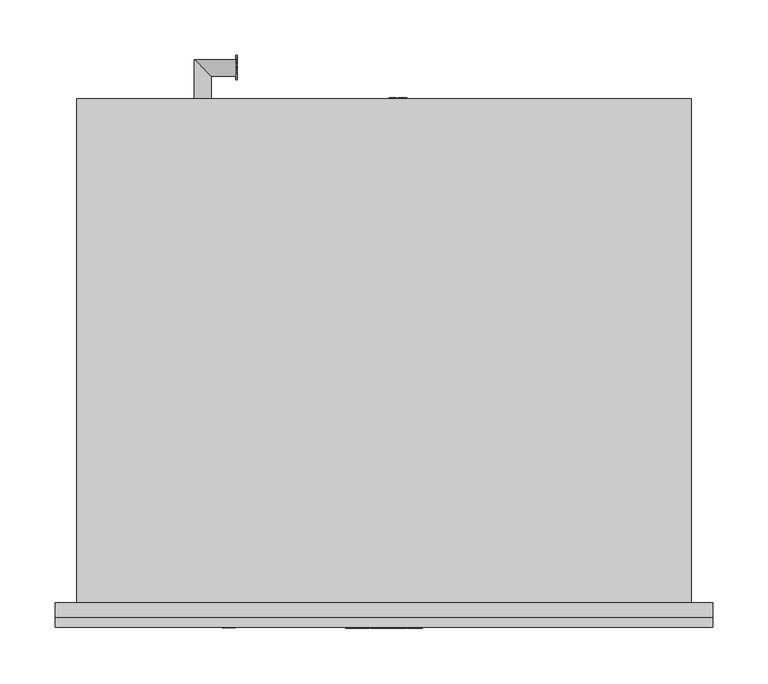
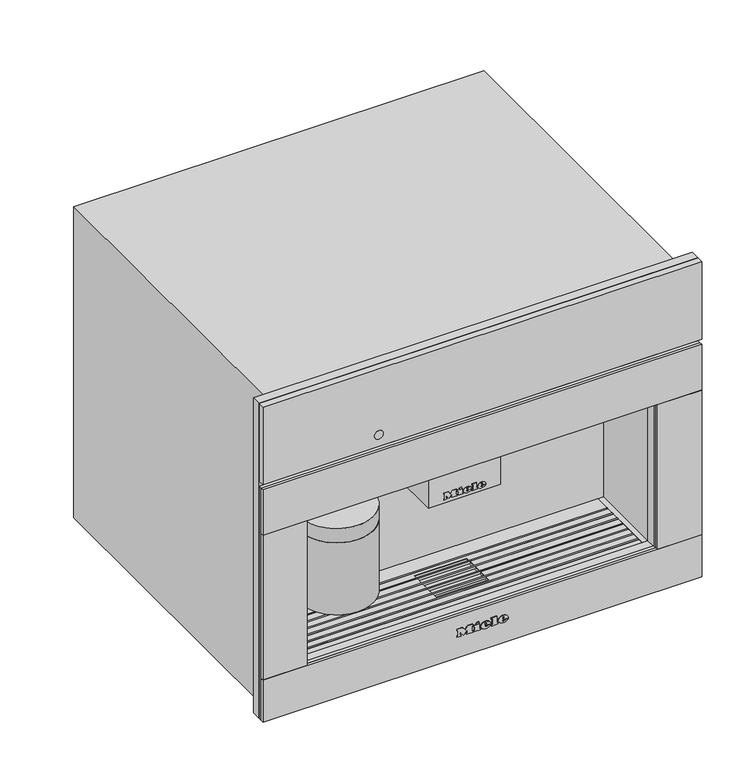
"""IFC4 building model written with IfcOpenShell, lengths in millimetres: proxy geometry, 12637240_NER_CVA7845_PEBE : 29784550_NER_12637240_CVA7845_PEBE."""

from ifc_helpers import new_model, si_unit, point, frame, frame_2d, origin, place, context, project, spatial, polyline, circle_curve, ellipse_curve, trimmed, segment, composite_curve, outline, extrude, faceted_brep, source, transform, mapped, element, save
from ifc_brep_helpers import plane_surface, cylinder_surface, revolved_surface, extruded_surface, advanced_brep


def specialty_equipment_d90eeb42(model_context):
    return source(origin(), model_context, "Body", "SolidModel", [
        extrude(outline(composite_curve([segment(trimmed(circle_curve(frame_2d((-14.0, 36.5)), 5.0), [point((-9.0, 36.5))], [point((-19.0, 36.5))], False, "CARTESIAN"), True, "CONTINUOUS"), segment(trimmed(circle_curve(frame_2d((-14.0, 36.5)), 5.0), [point((-19.0, 36.5))], [point((-9.0, 36.5))], False, "CARTESIAN"), True, "CONTINUOUS")], self_intersect=False)), frame((0.0, 0.0, 193.0), z_axis=(0.0, 0.0, 1.0), x_axis=(1.0, 0.0, 0.0)), (0.0, 0.0, 1.0), 5.0),
        extrude(outline(composite_curve([segment(trimmed(circle_curve(frame_2d((14.0, 36.5)), 5.0), [point((19.0, 36.5))], [point((9.0, 36.5))], False, "CARTESIAN"), True, "CONTINUOUS"), segment(trimmed(circle_curve(frame_2d((14.0, 36.5)), 5.0), [point((9.0, 36.5))], [point((19.0, 36.5))], False, "CARTESIAN"), True, "CONTINUOUS")], self_intersect=False)), frame((0.0, 0.0, 193.0), z_axis=(0.0, 0.0, 1.0), x_axis=(1.0, 0.0, 0.0)), (0.0, 0.0, 1.0), 5.0),
        extrude(outline(composite_curve([segment(trimmed(circle_curve(frame_2d((-156.5, 49.5)), 50.0), [point((-106.5, 49.5))], [point((-206.5, 49.5))], False, "CARTESIAN"), True, "CONTINUOUS"), segment(trimmed(circle_curve(frame_2d((-156.5, 49.5)), 50.0), [point((-206.5, 49.5))], [point((-106.5, 49.5))], False, "CARTESIAN"), True, "CONTINUOUS")], self_intersect=False)), frame((0.0, 0.0, 100.0), z_axis=(0.0, 0.0, 1.0), x_axis=(1.0, 0.0, 0.0)), (0.0, 0.0, 1.0), 103.0),
        extrude(outline(polyline([(-49.0, 95.0), (49.0, 95.0), (49.0, 20.0), (-49.0, 20.0), (-49.0, 95.0)])), frame((0.0, 0.0, 198.0), z_axis=(0.0, 0.0, 1.0), x_axis=(1.0, 0.0, 0.0)), (0.0, 0.0, 1.0), 75.0),
        extrude(outline(polyline([(455.5, 297.5), (455.5, -297.5), (4.0, -297.5), (4.0, 297.5), (455.5, 297.5)]), holes=[polyline([(273.0, 237.5), (63.0, 237.5), (63.0, -237.5), (273.0, -237.5), (273.0, 237.5)])]), frame((0.0, -13.0, 0.0), z_axis=(0.0, 1.0, 0.0), x_axis=(0.0, 0.0, 1.0)), (0.0, 0.0, 1.0), 13.0),
        extrude(outline(polyline([(484.5420128, 22.0), (481.8025182, 32.045631), (483.0974628, 32.045631), (484.6867131, 25.4433755), (485.1772224, 23.4053092), (485.7020674, 25.207931), (487.6935352, 32.045631), (489.5599232, 32.045631), (491.0069257, 27.0890343), (492.0835937, 23.4053092), (492.5593878, 25.3845144), (494.1633533, 32.045631), (495.4582979, 32.045631), (492.7163507, 22.0), (491.3748077, 22.0), (488.9664069, 29.7500474), (488.630408, 30.8316204), (488.2527159, 29.5293182), (486.0576866, 22.0), (484.5420128, 22.0)])), frame((-134.0, 0.0, 0.0), z_axis=(1.0, 0.0, 0.0), x_axis=(0.0, 1.0, 0.0)), (0.0, 0.0, 1.0), 1.0),
        extrude(outline(polyline([(473.48348, 22.0), (473.48348, 32.045631), (474.7391839, 32.045631), (474.7391839, 27.128275), (479.8895318, 32.045631), (481.6455552, 32.045631), (477.3217155, 27.9155425), (481.8025182, 22.0), (480.267224, 22.0), (476.4314411, 27.0669613), (474.7391839, 25.4531857), (474.7391839, 22.0), (473.48348, 22.0)])), frame((-134.0, 0.0, 0.0), z_axis=(1.0, 0.0, 0.0), x_axis=(0.0, 1.0, 0.0)), (0.0, 0.0, 1.0), 1.0),
        advanced_brep(
        [(-156.5, 476.5, 27.0), (-171.5, 491.5, 27.0), (-134.0, 491.5, 27.0), (-134.0, 476.5, 27.0), (-156.5, 456.0, 27.0), (-171.5, 456.0, 27.0)],
        [
            (0, 1, ellipse_curve(frame((-164.0, 484.0, 27.0), z_axis=(0.707106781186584, 0.7071067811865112, 0.0), x_axis=(-0.7071067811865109, 0.7071067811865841, 0.0)), 10.6066017, 7.5)),
            (1, 2),
            (2, 3, circle_curve(frame((-134.0, 484.0, 27.0), z_axis=(-1.0, 0.0, 0.0), x_axis=(0.0, 1.0, 0.0)), 7.5)),
            (3, 0),
            (4, 5, circle_curve(frame((-164.0, 456.0, 27.0), z_axis=(0.0, 1.0, 0.0), x_axis=(-1.0, 0.0, 0.0)), 7.5)),
            (5, 1),
            (0, 4),
            (4, 5, circle_curve(frame((-164.0, 456.0, 27.0), z_axis=(0.0, -1.0, 0.0), x_axis=(-1.0, 0.0, 0.0)), 7.5)),
            (0, 1, ellipse_curve(frame((-164.0, 484.0, 27.0), z_axis=(-0.707106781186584, -0.7071067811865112, 0.0), x_axis=(0.7071067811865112, -0.7071067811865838, 0.0)), 10.6066017, 7.5)),
            (2, 3, circle_curve(frame((-134.0, 484.0, 27.0), z_axis=(1.0, 0.0, 0.0), x_axis=(0.0, 1.0, 0.0)), 7.5)),
        ],
        [
            cylinder_surface(frame((-164.0, 484.0, 27.0), z_axis=(-1.0, 0.0, 0.0), x_axis=(0.0, 1.0, 0.0)), 7.5),
            cylinder_surface(frame((-164.0, 456.0, 27.0), z_axis=(0.0, -1.0, 0.0), x_axis=(-1.0, 0.0, 0.0)), 7.5),
            plane_surface(frame((-164.0, 456.0, 27.0), z_axis=(0.0, -1.0, 0.0), x_axis=(0.0, 0.0, 1.0))),
            plane_surface(frame((-134.0, 484.0, 27.0), z_axis=(1.0, 0.0, 0.0), x_axis=(0.0, 0.0, 1.0))),
        ],
        [
            (0, [[1, 2, 3, 4]]),
            (1, [[5, 6, -1, 7]]),
            (2, [[8, -5]]),
            (1, [[-8, -7, 9, -6]]),
            (3, [[-3, 10]]),
            (0, [[-9, -4, -10, -2]]),
        ],
    ),
        extrude(outline(polyline([(97.0, 11.140398), (107.045631, 11.140398), (107.045631, 9.8846941), (98.2557039, 9.8846941), (98.2557039, 4.8618786), (97.0, 4.8618786), (97.0, 11.140398)])), frame((0.0, 456.0, 0.0), z_axis=(0.0, 1.0, 0.0), x_axis=(0.0, 0.0, 1.0)), (0.0, 0.0, 1.0), 1.0),
        extrude(outline(polyline([(97.0, 20.4012141), (107.045631, 20.4012141), (107.045631, 13.1809168), (105.7899271, 13.1809168), (105.7899271, 19.1455102), (102.8076304, 19.1455102), (102.8076304, 13.4948427), (101.5519266, 13.4948427), (101.5519266, 19.1455102), (98.2557039, 19.1455102), (98.2557039, 13.0239538), (97.0, 13.0239538), (97.0, 20.4012141)])), frame((0.0, 456.0, 0.0), z_axis=(0.0, 1.0, 0.0), x_axis=(0.0, 0.0, 1.0)), (0.0, 0.0, 1.0), 1.0),
        advanced_brep(
        [(55.0, 425.5, 102.0), (55.0, 410.5, 102.0), (5.5239538, 410.5, 102.0), (20.5239538, 425.5, 102.0), (20.5239538, 456.0, 102.0), (5.5239538, 456.0, 102.0)],
        [
            (0, 1, circle_curve(frame((55.0, 418.0, 102.0), z_axis=(-1.0, 0.0, 0.0), x_axis=(0.0, -1.0, 0.0)), 7.5)),
            (1, 2),
            (2, 3, ellipse_curve(frame((13.0239538, 418.0, 102.0), z_axis=(0.7071067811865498, -0.7071067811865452, 0.0), x_axis=(0.7071067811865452, 0.7071067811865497, 0.0)), 10.6066017, 7.5)),
            (3, 0),
            (2, 3, ellipse_curve(frame((13.0239538, 418.0, 102.0), z_axis=(-0.7071067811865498, 0.7071067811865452, 0.0), x_axis=(-0.7071067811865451, -0.7071067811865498, 0.0)), 10.6066017, 7.5)),
            (3, 4),
            (4, 5, circle_curve(frame((13.0239538, 456.0, 102.0), z_axis=(0.0, -1.0, 0.0), x_axis=(-1.0, 0.0, 0.0)), 7.5)),
            (5, 2),
            (0, 1, circle_curve(frame((55.0, 418.0, 102.0), z_axis=(1.0, 0.0, 0.0), x_axis=(0.0, -1.0, 0.0)), 7.5)),
            (4, 5, circle_curve(frame((13.0239538, 456.0, 102.0), z_axis=(0.0, 1.0, 0.0), x_axis=(-1.0, 0.0, 0.0)), 7.5)),
        ],
        [
            cylinder_surface(frame((55.0, 418.0, 102.0), z_axis=(1.0, 0.0, 0.0), x_axis=(0.0, -1.0, 0.0)), 7.5),
            cylinder_surface(frame((13.0239538, 418.0, 102.0), z_axis=(0.0, -1.0, 0.0), x_axis=(-1.0, 0.0, 0.0)), 7.5),
            plane_surface(frame((55.0, 418.0, 102.0), z_axis=(1.0, 0.0, 0.0), x_axis=(0.0, 0.0, 1.0))),
            plane_surface(frame((13.0239538, 456.0, 102.0), z_axis=(0.0, 1.0, 0.0), x_axis=(0.0, 0.0, 1.0))),
        ],
        [
            (0, [[1, 2, 3, 4]]),
            (1, [[5, 6, 7, 8]]),
            (2, [[9, -1]]),
            (0, [[-9, -4, -5, -2]]),
            (3, [[10, -7]]),
            (1, [[-3, -8, -10, -6]]),
        ],
    ),
        advanced_brep(
        [(-106.5, 49.5, 203.0), (-206.5, 49.5, 203.0), (-156.5, 49.5, 203.0), (-106.5, 49.5, 223.5), (-206.5, 49.5, 223.5), (-110.0, 49.5, 252.0), (-203.0, 49.5, 252.0), (-110.0, 49.5, 273.0), (-203.0, 49.5, 273.0), (-156.5, 49.5, 273.0)],
        [
            (0, 1, circle_curve(frame((-156.5, 49.5, 203.0), z_axis=(0.0, 0.0, -1.0), x_axis=(-1.0, 0.0, 0.0)), 50.0)),
            (1, 2),
            (2, 0),
            (1, 0, circle_curve(frame((-156.5, 49.5, 203.0), z_axis=(0.0, 0.0, -1.0), x_axis=(-1.0, 0.0, 0.0)), 50.0)),
            (3, 4, circle_curve(frame((-156.5, 49.5, 223.5), z_axis=(0.0, 0.0, -1.0), x_axis=(-1.0, 0.0, 0.0)), 50.0)),
            (4, 1),
            (0, 3),
            (4, 3, circle_curve(frame((-156.5, 49.5, 223.5), z_axis=(0.0, 0.0, -1.0), x_axis=(-1.0, 0.0, 0.0)), 50.0)),
            (5, 6, circle_curve(frame((-156.5, 49.5, 252.0), z_axis=(0.0, 0.0, -1.0), x_axis=(-1.0, 0.0, 0.0)), 46.5)),
            (6, 4, circle_curve(frame((-206.7961166, 49.5, 238.0012775), z_axis=(0.0, 1.0, 0.0), x_axis=(-1.0, 0.0, 0.0)), 14.5043005)),
            (3, 5, circle_curve(frame((-106.2038834, 49.5, 238.0012775), z_axis=(0.0, 1.0, 0.0), x_axis=(1.0, 0.0, 0.0)), 14.5043005)),
            (6, 5, circle_curve(frame((-156.5, 49.5, 252.0), z_axis=(0.0, 0.0, -1.0), x_axis=(-1.0, 0.0, 0.0)), 46.5)),
            (7, 8, circle_curve(frame((-156.5, 49.5, 273.0), z_axis=(0.0, 0.0, -1.0), x_axis=(-1.0, 0.0, 0.0)), 46.5)),
            (8, 6),
            (5, 7),
            (8, 7, circle_curve(frame((-156.5, 49.5, 273.0), z_axis=(0.0, 0.0, -1.0), x_axis=(-1.0, 0.0, 0.0)), 46.5)),
            (9, 8),
            (7, 9),
        ],
        [
            plane_surface(frame((-156.5, 49.5, 203.0), z_axis=(0.0, 0.0, -1.0), x_axis=(-1.0, 0.0, 0.0))),
            cylinder_surface(frame((-156.5, 49.5, 388.7361736), z_axis=(0.0, 0.0, 1.0), x_axis=(-1.0, 0.0, 0.0)), 50.0),
            revolved_surface(trimmed(ellipse_curve(frame((-206.7961166, 49.5, 238.0012775), z_axis=(0.0, -1.0, 0.0), x_axis=(-1.0, 0.0, 0.0)), 14.5043005, 14.5043005), [point((-206.5, 49.5, 223.5))], [point((-203.0, 49.5, 252.0))], True, "CARTESIAN"), (-156.5, 49.5, 388.7361736), (0.0, 0.0, 1.0)),
            cylinder_surface(frame((-156.5, 49.5, 388.7361736), z_axis=(0.0, 0.0, 1.0), x_axis=(-1.0, 0.0, 0.0)), 46.5),
            plane_surface(frame((-156.5, 49.5, 273.0), z_axis=(0.0, 0.0, 1.0), x_axis=(-1.0, 0.0, 0.0))),
        ],
        [
            (0, [[1, 2, 3]]),
            (0, [[4, -3, -2]]),
            (1, [[5, 6, -1, 7]]),
            (1, [[8, -7, -4, -6]]),
            (2, [[9, 10, -5, 11]]),
            (2, [[12, -11, -8, -10]]),
            (3, [[13, 14, -9, 15]]),
            (3, [[16, -15, -12, -14]]),
            (4, [[17, -13, 18]]),
            (4, [[-18, -16, -17]]),
        ],
    ),
        faceted_brep([(229.5, 0.0, 62.0), (-229.5, 0.0, 62.0), (-229.5, 8.0, 62.0), (229.5, 8.0, 62.0), (-229.5, 104.5, 62.0), (229.5, 104.5, 62.0), (229.5, 82.0925571, 62.0), (-229.5, 82.0925571, 62.0), (36.0, 76.0, 62.0), (-36.0, 76.0, 62.0), (-36.0, 70.0550731, 62.0), (-229.5, 70.0550731, 62.0), (-229.5, 80.0925571, 62.0), (229.5, 80.0925571, 62.0), (229.5, 70.0550731, 62.0), (36.0, 70.0550731, 62.0), (-36.0, 25.0, 62.0), (36.0, 25.0, 62.0), (36.0, 31.9426212, 62.0), (229.5, 31.9426212, 62.0), (229.5, 21.9776522, 62.0), (-229.5, 21.9776522, 62.0), (-229.5, 31.9426212, 62.0), (-36.0, 31.9426212, 62.0), (229.5, 19.9776522, 62.0), (229.5, 10.0, 62.0), (-229.5, 10.0, 62.0), (-229.5, 19.9776522, 62.0), (229.5, 43.9801052, 62.0), (229.5, 33.9426212, 62.0), (36.0, 33.9426212, 62.0), (36.0, 43.9801052, 62.0), (229.5, 56.0175891, 62.0), (229.5, 45.9801052, 62.0), (36.0, 45.9801052, 62.0), (36.0, 56.0175891, 62.0), (229.5, 68.0550731, 62.0), (229.5, 58.0175891, 62.0), (36.0, 58.0175891, 62.0), (36.0, 68.0550731, 62.0), (-229.5, 33.9426212, 62.0), (-229.5, 43.9801052, 62.0), (-36.0, 43.9801052, 62.0), (-36.0, 33.9426212, 62.0), (-229.5, 45.9801052, 62.0), (-229.5, 56.0175891, 62.0), (-36.0, 56.0175891, 62.0), (-36.0, 45.9801052, 62.0), (-229.5, 58.0175891, 62.0), (-229.5, 68.0550731, 62.0), (-36.0, 68.0550731, 62.0), (-36.0, 58.0175891, 62.0), (229.5, 104.5, 63.0), (-229.5, 104.5, 63.0), (-229.5, 82.0925571, 63.0), (229.5, 82.0925571, 63.0), (-229.5, 0.0, 63.0), (229.5, 0.0, 63.0), (229.5, 8.0, 63.0), (-229.5, 8.0, 63.0), (-36.0, 76.0, 63.0), (36.0, 76.0, 63.0), (36.0, 70.0550731, 63.0), (229.5, 70.0550731, 63.0), (229.5, 80.0925571, 63.0), (-229.5, 80.0925571, 63.0), (-229.5, 70.0550731, 63.0), (-36.0, 70.0550731, 63.0), (36.0, 25.0, 63.0), (-36.0, 25.0, 63.0), (-36.0, 31.9426212, 63.0), (-229.5, 31.9426212, 63.0), (-229.5, 21.9776522, 63.0), (229.5, 21.9776522, 63.0), (229.5, 31.9426212, 63.0), (36.0, 31.9426212, 63.0), (-229.5, 19.9776522, 63.0), (-229.5, 10.0, 63.0), (229.5, 10.0, 63.0), (229.5, 19.9776522, 63.0), (-229.5, 43.9801052, 63.0), (-229.5, 33.9426212, 63.0), (-36.0, 33.9426212, 63.0), (-36.0, 43.9801052, 63.0), (-229.5, 56.0175891, 63.0), (-229.5, 45.9801052, 63.0), (-36.0, 45.9801052, 63.0), (-36.0, 56.0175891, 63.0), (-229.5, 68.0550731, 63.0), (-229.5, 58.0175891, 63.0), (-36.0, 58.0175891, 63.0), (-36.0, 68.0550731, 63.0), (229.5, 33.9426212, 63.0), (229.5, 43.9801052, 63.0), (36.0, 43.9801052, 63.0), (36.0, 33.9426212, 63.0), (229.5, 45.9801052, 63.0), (229.5, 56.0175891, 63.0), (36.0, 56.0175891, 63.0), (36.0, 45.9801052, 63.0), (229.5, 58.0175891, 63.0), (229.5, 68.0550731, 63.0), (36.0, 68.0550731, 63.0), (36.0, 58.0175891, 63.0), (-229.5, 82.0925571, 60.0), (-229.5, 80.0925571, 60.0), (-229.5, 70.0550731, 60.0), (-229.5, 68.0550731, 60.0), (-229.5, 58.0175891, 60.0), (-229.5, 56.0175891, 60.0), (-229.5, 45.9801052, 60.0), (-229.5, 43.9801052, 60.0), (-229.5, 33.9426212, 60.0), (-229.5, 31.9426212, 60.0), (-229.5, 21.9776522, 60.0), (-229.5, 19.9776522, 60.0), (-229.5, 10.0, 60.0), (-229.5, 8.0, 60.0), (-229.5, 8.0, 63.5), (-229.5, 10.0, 63.5), (-229.5, 19.9776522, 63.5), (-229.5, 21.9776522, 63.5), (-229.5, 31.9426212, 63.5), (-229.5, 33.9426212, 63.5), (-229.5, 43.9801052, 63.5), (-229.5, 45.9801052, 63.5), (-229.5, 56.0175891, 63.5), (-229.5, 58.0175891, 63.5), (-229.5, 68.0550731, 63.5), (-229.5, 70.0550731, 63.5), (-229.5, 80.0925571, 63.5), (-229.5, 82.0925571, 63.5), (229.5, 82.0925571, 63.5), (229.5, 80.0925571, 63.5), (229.5, 70.0550731, 63.5), (229.5, 68.0550731, 63.5), (229.5, 58.0175891, 63.5), (229.5, 56.0175891, 63.5), (229.5, 45.9801052, 63.5), (229.5, 43.9801052, 63.5), (229.5, 33.9426212, 63.5), (229.5, 31.9426212, 63.5), (229.5, 21.9776522, 63.5), (229.5, 19.9776522, 63.5), (229.5, 10.0, 63.5), (229.5, 8.0, 63.5), (229.5, 8.0, 60.0), (229.5, 10.0, 60.0), (229.5, 19.9776522, 60.0), (229.5, 21.9776522, 60.0), (229.5, 31.9426212, 60.0), (229.5, 33.9426212, 60.0), (229.5, 43.9801052, 60.0), (229.5, 45.9801052, 60.0), (229.5, 56.0175891, 60.0), (229.5, 58.0175891, 60.0), (229.5, 68.0550731, 60.0), (229.5, 70.0550731, 60.0), (229.5, 80.0925571, 60.0), (229.5, 82.0925571, 60.0)], [[[0, 1, 2, 3]], [[4, 5, 6, 7]], [[8, 9, 10, 11, 12, 13, 14, 15]], [[16, 17, 18, 19, 20, 21, 22, 23]], [[24, 25, 26, 27]], [[28, 29, 30, 31]], [[32, 33, 34, 35]], [[36, 37, 38, 39]], [[40, 41, 42, 43]], [[44, 45, 46, 47]], [[48, 49, 50, 51]], [[52, 53, 54, 55]], [[56, 57, 58, 59]], [[60, 61, 62, 63, 64, 65, 66, 67]], [[68, 69, 70, 71, 72, 73, 74, 75]], [[76, 77, 78, 79]], [[80, 81, 82, 83]], [[84, 85, 86, 87]], [[88, 89, 90, 91]], [[92, 93, 94, 95]], [[96, 97, 98, 99]], [[100, 101, 102, 103]], [[5, 4, 53, 52]], [[53, 4, 7, 104, 105, 12, 11, 106, 107, 49, 48, 108, 109, 45, 44, 110, 111, 41, 40, 112, 113, 22, 21, 114, 115, 27, 26, 116, 117, 2, 1, 56, 59, 118, 119, 77, 76, 120, 121, 72, 71, 122, 123, 81, 80, 124, 125, 85, 84, 126, 127, 89, 88, 128, 129, 66, 65, 130, 131, 54]], [[1, 0, 57, 56]], [[5, 52, 55, 132, 133, 64, 63, 134, 135, 101, 100, 136, 137, 97, 96, 138, 139, 93, 92, 140, 141, 74, 73, 142, 143, 79, 78, 144, 145, 58, 57, 0, 3, 146, 147, 25, 24, 148, 149, 20, 19, 150, 151, 29, 28, 152, 153, 33, 32, 154, 155, 37, 36, 156, 157, 14, 13, 158, 159, 6]], [[8, 61, 60, 9]], [[43, 42, 83, 82]], [[47, 46, 87, 86]], [[51, 50, 91, 90]], [[9, 60, 67, 10]], [[69, 16, 23, 70]], [[16, 69, 68, 17]], [[31, 30, 95, 94]], [[35, 34, 99, 98]], [[39, 38, 103, 102]], [[61, 8, 15, 62]], [[17, 68, 75, 18]], [[147, 146, 117, 116]], [[149, 148, 115, 114]], [[151, 150, 113, 112]], [[153, 152, 111, 110]], [[155, 154, 109, 108]], [[157, 156, 107, 106]], [[159, 158, 105, 104]], [[144, 119, 118, 145]], [[142, 121, 120, 143]], [[140, 123, 122, 141]], [[138, 125, 124, 139]], [[136, 127, 126, 137]], [[134, 129, 128, 135]], [[132, 131, 130, 133]], [[147, 116, 26, 25]], [[119, 144, 78, 77]], [[117, 146, 3, 2]], [[145, 118, 59, 58]], [[149, 114, 21, 20]], [[121, 142, 73, 72]], [[115, 148, 24, 27]], [[143, 120, 76, 79]], [[151, 112, 40, 43, 82, 81, 123, 140, 92, 95, 30, 29]], [[113, 150, 19, 18, 75, 74, 141, 122, 71, 70, 23, 22]], [[153, 110, 44, 47, 86, 85, 125, 138, 96, 99, 34, 33]], [[111, 152, 28, 31, 94, 93, 139, 124, 80, 83, 42, 41]], [[155, 108, 48, 51, 90, 89, 127, 136, 100, 103, 38, 37]], [[109, 154, 32, 35, 98, 97, 137, 126, 84, 87, 46, 45]], [[157, 106, 11, 10, 67, 66, 129, 134, 63, 62, 15, 14]], [[107, 156, 36, 39, 102, 101, 135, 128, 88, 91, 50, 49]], [[159, 104, 7, 6]], [[131, 132, 55, 54]], [[105, 158, 13, 12]], [[133, 130, 65, 64]]]),
        faceted_brep([(-278.0, 456.0, 0.0), (-278.0, 0.0, 0.0), (-278.0, 0.0, 446.0), (-278.0, 456.0, 446.0), (278.0, 456.0, 0.0), (278.0, 456.0, 446.0), (278.0, 0.0, 446.0), (278.0, 0.0, 0.0), (55.0, 456.0, 133.0), (-22.0, 456.0, 133.0), (-22.0, 456.0, 89.0), (35.0, 456.0, 66.0), (55.0, 456.0, 66.0), (237.5, 0.0, 273.0), (237.5, 0.0, 63.0), (229.5, 0.0, 63.0), (229.5, 0.0, 62.0), (-229.5, 0.0, 62.0), (-229.5, 0.0, 63.0), (-237.5, 0.0, 63.0), (-237.5, 0.0, 273.0), (237.5, 104.5, 273.0), (-237.5, 104.5, 273.0), (-237.5, 104.5, 63.0), (-229.5, 104.5, 63.0), (-229.5, 104.5, 62.0), (229.5, 104.5, 62.0), (229.5, 104.5, 63.0), (237.5, 104.5, 63.0), (-36.0, 76.0, 62.0), (36.0, 76.0, 62.0), (36.0, 25.0, 62.0), (-36.0, 25.0, 62.0), (36.0, 76.0, 58.0), (-36.0, 76.0, 58.0), (-36.0, 25.0, 58.0), (36.0, 25.0, 58.0), (-22.0, 400.0, 133.0), (55.0, 400.0, 133.0), (55.0, 400.0, 66.0), (35.0, 400.0, 66.0), (-22.0, 400.0, 89.0)], [[[0, 1, 2, 3]], [[4, 5, 6, 7]], [[0, 3, 5, 4], [8, 9, 10, 11, 12]], [[3, 2, 6, 5]], [[2, 1, 7, 6], [13, 14, 15, 16, 17, 18, 19, 20]], [[1, 0, 4, 7]], [[21, 22, 23, 24, 25, 26, 27, 28]], [[21, 28, 14, 13]], [[14, 28, 27, 15]], [[23, 19, 18, 24]], [[23, 22, 20, 19]], [[22, 21, 13, 20]], [[26, 25, 17, 16], [29, 30, 31, 32]], [[17, 25, 24, 18]], [[26, 16, 15, 27]], [[33, 34, 35, 36]], [[34, 33, 30, 29]], [[35, 34, 29, 32]], [[36, 35, 32, 31]], [[33, 36, 31, 30]], [[37, 38, 39, 40, 41]], [[38, 37, 9, 8]], [[39, 38, 8, 12]], [[40, 39, 12, 11]], [[41, 40, 11, 10]], [[37, 41, 10, 9]]]),
        advanced_brep(
        [(27.088, -23.0, 36.7018), (27.088, -23.0, 37.8532), (34.7146, -23.0, 37.8532), (21.445, -23.0, 37.8532), (24.58, -23.0, 34.0), (34.5208, -23.0, 36.7018), (31.078, -23.0, 36.7018), (28.3648, -23.0, 35.425), (27.088, -23.0, 39.3124), (27.088, -23.0, 40.555), (29.0374, -23.0, 40.555), (29.0374, -23.0, 39.3124), (27.088, -22.0, 36.7018), (28.3648, -22.0, 35.425), (31.078, -22.0, 36.7018), (34.5208, -22.0, 36.7018), (24.58, -22.0, 34.0), (21.445, -22.0, 37.8532), (34.7146, -22.0, 37.8532), (27.088, -22.0, 37.8532), (27.088, -22.0, 39.3124), (29.0374, -22.0, 39.3124), (29.0374, -22.0, 40.555), (27.088, -22.0, 40.555)],
        [
            (0, 1),
            (1, 2),
            (2, 3, ellipse_curve(frame((28.0798, -23.0, 37.8532), z_axis=(0.0, -1.0, 0.0), x_axis=(-1.0, 0.0, 0.0)), 6.6348, 5.4834)),
            (3, 4, circle_curve(frame((25.8568622, -23.0, 38.2408), z_axis=(0.0, -1.0, 0.0), x_axis=(0.0, 0.0, -1.0)), 4.4288556)),
            (4, 5, circle_curve(frame((27.9469808, -23.0, 41.2504), z_axis=(0.0, -1.0, 0.0), x_axis=(0.0, 0.0, -1.0)), 7.9940516)),
            (5, 6),
            (6, 7, circle_curve(frame((28.9220588, -23.0, 37.762), z_axis=(0.0, 1.0, 0.0), x_axis=(0.0, 0.0, -1.0)), 2.4025208)),
            (7, 0, circle_curve(frame((28.3648, -23.0, 36.7018), z_axis=(0.0, 1.0, 0.0), x_axis=(0.0, 0.0, -1.0)), 1.2768)),
            (8, 9),
            (9, 10, circle_curve(frame((28.0627, -23.0, 40.555), z_axis=(0.0, 1.0, 0.0), x_axis=(0.0, 0.0, -1.0)), 0.9747)),
            (10, 11),
            (11, 8),
            (12, 13, circle_curve(frame((28.3648, -22.0, 36.7018), z_axis=(0.0, -1.0, 0.0), x_axis=(0.0, 0.0, -1.0)), 1.2768)),
            (13, 14, circle_curve(frame((28.9220588, -22.0, 37.762), z_axis=(0.0, -1.0, 0.0), x_axis=(0.0, 0.0, -1.0)), 2.4025208)),
            (14, 15),
            (15, 16, circle_curve(frame((27.9469808, -22.0, 41.2504), z_axis=(0.0, 1.0, 0.0), x_axis=(0.0, 0.0, -1.0)), 7.9940516)),
            (16, 17, circle_curve(frame((25.8568622, -22.0, 38.2408), z_axis=(0.0, 1.0, 0.0), x_axis=(0.0, 0.0, -1.0)), 4.4288556)),
            (17, 18, ellipse_curve(frame((28.0798, -22.0, 37.8532), z_axis=(0.0, 1.0, 0.0), x_axis=(-1.0, 0.0, 0.0)), 6.6348, 5.4834)),
            (18, 19),
            (19, 12),
            (20, 21),
            (21, 22),
            (22, 23, circle_curve(frame((28.0627, -22.0, 40.555), z_axis=(0.0, -1.0, 0.0), x_axis=(0.0, 0.0, -1.0)), 0.9747)),
            (23, 20),
            (0, 12),
            (19, 1),
            (18, 2),
            (5, 15),
            (14, 6),
            (17, 3),
            (13, 7),
            (16, 4),
            (8, 20),
            (23, 9),
            (22, 10),
            (21, 11),
        ],
        [
            plane_surface(frame((27.088, -23.0, 37.8532), z_axis=(0.0, -1.0, 0.0), x_axis=(0.0, 0.0, 1.0))),
            plane_surface(frame((27.088, -22.0, 37.8532), z_axis=(0.0, 1.0, 0.0), x_axis=(0.0, 0.0, -1.0))),
            plane_surface(frame((27.088, -23.0, 36.7018), z_axis=(1.0, 0.0, 0.0), x_axis=(0.0, 1.0, 0.0))),
            plane_surface(frame((27.088, -23.0, 37.8532), z_axis=(0.0, 0.0, -1.0), x_axis=(0.0, 1.0, 0.0))),
            plane_surface(frame((34.5208, -23.0, 36.7018), z_axis=(0.0, 0.0, 1.0), x_axis=(0.0, 1.0, 0.0))),
            extruded_surface(trimmed(ellipse_curve(frame((28.0798, -21.0, 37.8532), z_axis=(0.0, -1.0, 0.0), x_axis=(-1.0, 0.0, 0.0)), 6.6348, 5.4834), [point((34.7146, -21.0, 37.8532))], [point((21.445, -21.0, 37.8532))], True, "CARTESIAN"), (0.0, -1.0, 0.0), 1.0),
            revolved_surface(polyline([(28.9220588, -22.0, 35.3594792), (28.9220588, -23.0, 35.3594792)]), (28.9220588, -22.0, 37.762), (0.0, 1.0, 0.0)),
            revolved_surface(polyline([(28.3648, -22.0, 35.425), (28.3648, -23.0, 35.425)]), (28.3648, -22.0, 36.7018), (0.0, 1.0, 0.0)),
            cylinder_surface(frame((25.8568622, -22.0, 38.2408), z_axis=(0.0, -1.0, 0.0), x_axis=(0.0, 0.0, -1.0)), 4.4288556),
            cylinder_surface(frame((27.9469808, -22.0, 41.2504), z_axis=(0.0, -1.0, 0.0), x_axis=(0.0, 0.0, -1.0)), 7.9940516),
            plane_surface(frame((27.088, -23.0, 39.3124), z_axis=(1.0, 0.0, 0.0), x_axis=(0.0, 1.0, 0.0))),
            revolved_surface(polyline([(28.0627, -22.0, 39.5803), (28.0627, -23.0, 39.5803)]), (28.0627, -22.0, 40.555), (0.0, 1.0, 0.0)),
            plane_surface(frame((29.0374, -23.0, 40.555), z_axis=(-1.0, 0.0, 0.0), x_axis=(0.0, 1.0, 0.0))),
            plane_surface(frame((29.0374, -23.0, 39.3124), z_axis=(0.0, 0.0, 1.0), x_axis=(0.0, 1.0, 0.0))),
        ],
        [
            (0, [[1, 2, 3, 4, 5, 6, 7, 8], [9, 10, 11, 12]]),
            (1, [[13, 14, 15, 16, 17, 18, 19, 20], [21, 22, 23, 24]]),
            (2, [[-1, 25, -20, 26]]),
            (3, [[-2, -26, -19, 27]]),
            (4, [[-6, 28, -15, 29]]),
            (5, [[-3, -27, -18, 30]]),
            (6, [[-7, -29, -14, 31]]),
            (7, [[-8, -31, -13, -25]]),
            (8, [[-4, -30, -17, 32]]),
            (9, [[-5, -32, -16, -28]]),
            (10, [[-9, 33, -24, 34]]),
            (11, [[-10, -34, -23, 35]]),
            (12, [[-11, -35, -22, 36]]),
            (13, [[-12, -36, -21, -33]]),
        ],
    ),
        advanced_brep(
        [(3.2962, -23.0, 36.7018), (3.2962, -23.0, 37.8532), (10.9228, -23.0, 37.8532), (-2.3468, -23.0, 37.8532), (0.7882, -23.0, 34.0), (10.729, -23.0, 36.7018), (7.2862, -23.0, 36.7018), (4.573, -23.0, 35.425), (3.2962, -23.0, 39.3124), (3.2962, -23.0, 40.555), (5.2456, -23.0, 40.555), (5.2456, -23.0, 39.3124), (3.2962, -22.0, 36.7018), (4.573, -22.0, 35.425), (7.2862, -22.0, 36.7018), (10.729, -22.0, 36.7018), (0.7882, -22.0, 34.0), (-2.3468, -22.0, 37.8532), (10.9228, -22.0, 37.8532), (3.2962, -22.0, 37.8532), (3.2962, -22.0, 39.3124), (5.2456, -22.0, 39.3124), (5.2456, -22.0, 40.555), (3.2962, -22.0, 40.555)],
        [
            (0, 1),
            (1, 2),
            (2, 3, ellipse_curve(frame((4.288, -23.0, 37.8532), z_axis=(0.0, -1.0, 0.0), x_axis=(-1.0, 0.0, 0.0)), 6.6348, 5.4834)),
            (3, 4, circle_curve(frame((2.0650622, -23.0, 38.2408), z_axis=(0.0, -1.0, 0.0), x_axis=(0.0, 0.0, -1.0)), 4.4288556)),
            (4, 5, circle_curve(frame((4.1551808, -23.0, 41.2504), z_axis=(0.0, -1.0, 0.0), x_axis=(0.0, 0.0, -1.0)), 7.9940516)),
            (5, 6),
            (6, 7, circle_curve(frame((5.1302588, -23.0, 37.762), z_axis=(0.0, 1.0, 0.0), x_axis=(0.0, 0.0, -1.0)), 2.4025208)),
            (7, 0, circle_curve(frame((4.573, -23.0, 36.7018), z_axis=(0.0, 1.0, 0.0), x_axis=(0.0, 0.0, -1.0)), 1.2768)),
            (8, 9),
            (9, 10, circle_curve(frame((4.2709, -23.0, 40.555), z_axis=(0.0, 1.0, 0.0), x_axis=(0.0, 0.0, -1.0)), 0.9747)),
            (10, 11),
            (11, 8),
            (12, 13, circle_curve(frame((4.573, -22.0, 36.7018), z_axis=(0.0, -1.0, 0.0), x_axis=(0.0, 0.0, -1.0)), 1.2768)),
            (13, 14, circle_curve(frame((5.1302588, -22.0, 37.762), z_axis=(0.0, -1.0, 0.0), x_axis=(0.0, 0.0, -1.0)), 2.4025208)),
            (14, 15),
            (15, 16, circle_curve(frame((4.1551808, -22.0, 41.2504), z_axis=(0.0, 1.0, 0.0), x_axis=(0.0, 0.0, -1.0)), 7.9940516)),
            (16, 17, circle_curve(frame((2.0650622, -22.0, 38.2408), z_axis=(0.0, 1.0, 0.0), x_axis=(0.0, 0.0, -1.0)), 4.4288556)),
            (17, 18, ellipse_curve(frame((4.288, -22.0, 37.8532), z_axis=(0.0, 1.0, 0.0), x_axis=(-1.0, 0.0, 0.0)), 6.6348, 5.4834)),
            (18, 19),
            (19, 12),
            (20, 21),
            (21, 22),
            (22, 23, circle_curve(frame((4.2709, -22.0, 40.555), z_axis=(0.0, -1.0, 0.0), x_axis=(0.0, 0.0, -1.0)), 0.9747)),
            (23, 20),
            (0, 12),
            (19, 1),
            (18, 2),
            (5, 15),
            (14, 6),
            (17, 3),
            (13, 7),
            (16, 4),
            (8, 20),
            (23, 9),
            (22, 10),
            (21, 11),
        ],
        [
            plane_surface(frame((3.2962, -23.0, 37.8532), z_axis=(0.0, -1.0, 0.0), x_axis=(0.0, 0.0, 1.0))),
            plane_surface(frame((3.2962, -22.0, 37.8532), z_axis=(0.0, 1.0, 0.0), x_axis=(0.0, 0.0, -1.0))),
            plane_surface(frame((3.2962, -23.0, 36.7018), z_axis=(1.0, 0.0, 0.0), x_axis=(0.0, 1.0, 0.0))),
            plane_surface(frame((3.2962, -23.0, 37.8532), z_axis=(0.0, 0.0, -1.0), x_axis=(0.0, 1.0, 0.0))),
            plane_surface(frame((10.729, -23.0, 36.7018), z_axis=(0.0, 0.0, 1.0), x_axis=(0.0, 1.0, 0.0))),
            extruded_surface(trimmed(ellipse_curve(frame((4.288, -21.0, 37.8532), z_axis=(0.0, -1.0, 0.0), x_axis=(-1.0, 0.0, 0.0)), 6.6348, 5.4834), [point((10.9228, -21.0, 37.8532))], [point((-2.3468, -21.0, 37.8532))], True, "CARTESIAN"), (0.0, -1.0, 0.0), 1.0),
            revolved_surface(polyline([(5.1302588, -22.0, 35.3594792), (5.1302588, -23.0, 35.3594792)]), (5.1302588, -22.0, 37.762), (0.0, 1.0, 0.0)),
            revolved_surface(polyline([(4.573, -22.0, 35.425), (4.573, -23.0, 35.425)]), (4.573, -22.0, 36.7018), (0.0, 1.0, 0.0)),
            cylinder_surface(frame((2.0650622, -22.0, 38.2408), z_axis=(0.0, -1.0, 0.0), x_axis=(0.0, 0.0, -1.0)), 4.4288556),
            cylinder_surface(frame((4.1551808, -22.0, 41.2504), z_axis=(0.0, -1.0, 0.0), x_axis=(0.0, 0.0, -1.0)), 7.9940516),
            plane_surface(frame((3.2962, -23.0, 39.3124), z_axis=(1.0, 0.0, 0.0), x_axis=(0.0, 1.0, 0.0))),
            revolved_surface(polyline([(4.2709, -22.0, 39.5803), (4.2709, -23.0, 39.5803)]), (4.2709, -22.0, 40.555), (0.0, 1.0, 0.0)),
            plane_surface(frame((5.2456, -23.0, 40.555), z_axis=(-1.0, 0.0, 0.0), x_axis=(0.0, 1.0, 0.0))),
            plane_surface(frame((5.2456, -23.0, 39.3124), z_axis=(0.0, 0.0, 1.0), x_axis=(0.0, 1.0, 0.0))),
        ],
        [
            (0, [[1, 2, 3, 4, 5, 6, 7, 8], [9, 10, 11, 12]]),
            (1, [[13, 14, 15, 16, 17, 18, 19, 20], [21, 22, 23, 24]]),
            (2, [[-1, 25, -20, 26]]),
            (3, [[-2, -26, -19, 27]]),
            (4, [[-6, 28, -15, 29]]),
            (5, [[-3, -27, -18, 30]]),
            (6, [[-7, -29, -14, 31]]),
            (7, [[-8, -31, -13, -25]]),
            (8, [[-4, -30, -17, 32]]),
            (9, [[-5, -32, -16, -28]]),
            (10, [[-9, 33, -24, 34]]),
            (11, [[-10, -34, -23, 35]]),
            (12, [[-11, -35, -22, 36]]),
            (13, [[-12, -36, -21, -33]]),
        ],
    ),
        extrude(outline(polyline([(44.7274, -9.164), (42.8806, -8.2976), (44.6818, -4.433), (46.5286, -5.288), (44.7274, -9.164)])), frame((0.0, -23.0, 0.0), z_axis=(0.0, 1.0, 0.0), x_axis=(0.0, 0.0, 1.0)), (0.0, 0.0, 1.0), 1.0),
        extrude(outline(polyline([(42.6298, -11.9798), (40.5892, -11.9798), (40.5892, -10.6232), (35.9152, -10.6232), (35.9152, -11.9798), (34.0, -11.9798), (34.0, -2.9852), (35.9152, -2.9852), (35.9152, -4.3076), (42.6298, -4.3076), (42.6298, -11.9798)])), frame((0.0, -23.0, 0.0), z_axis=(0.0, 1.0, 0.0), x_axis=(0.0, 0.0, 1.0)), (0.0, 0.0, 1.0), 1.0),
        extrude(outline(polyline([(43.5418, 11.5612), (43.5418, 12.9292), (35.9152, 12.9292), (35.9152, 11.5612), (34.0, 11.5612), (34.0, 20.8066), (35.9152, 20.8066), (35.9152, 19.4044), (45.4, 19.4044), (45.4, 11.5612), (43.5418, 11.5612)])), frame((0.0, -23.0, 0.0), z_axis=(0.0, 1.0, 0.0), x_axis=(0.0, 0.0, 1.0)), (0.0, 0.0, 1.0), 1.0),
        extrude(outline(polyline([(43.5418, -34.7), (43.5418, -33.3206), (35.9152, -33.3206), (35.9152, -34.7), (34.0, -34.7), (34.0, -29.684), (35.9152, -29.684), (35.9152, -31.052), (40.7429247, -31.052), (34.0, -25.9562), (40.9402223, -20.8376), (35.9152, -20.8376), (35.9152, -22.2398), (34.0, -22.2398), (34.0, -13.1426), (35.9152, -13.1426), (35.9152, -14.5904), (43.5418, -14.5904), (43.5418, -13.1426), (45.4, -13.1426), (45.4, -20.0852), (41.125, -23.414), (45.4, -26.7542), (45.4, -34.7), (43.5418, -34.7)])), frame((0.0, -23.0, 0.0), z_axis=(0.0, 1.0, 0.0), x_axis=(0.0, 0.0, 1.0)), (0.0, 0.0, 1.0), 1.0),
        advanced_brep(
        [(22.348, 19.0, 205.5278), (22.348, 19.0, 206.4772), (28.6366, 19.0, 206.4772), (17.695, 19.0, 206.4772), (20.28, 19.0, 203.3), (28.4768, 19.0, 205.5278), (25.638, 19.0, 205.5278), (23.4008, 19.0, 204.475), (22.348, 19.0, 207.6804), (22.348, 19.0, 208.705), (23.9554, 19.0, 208.705), (23.9554, 19.0, 207.6804), (22.348, 20.0, 205.5278), (23.4008, 20.0, 204.475), (25.638, 20.0, 205.5278), (28.4768, 20.0, 205.5278), (20.28, 20.0, 203.3), (17.695, 20.0, 206.4772), (28.6366, 20.0, 206.4772), (22.348, 20.0, 206.4772), (22.348, 20.0, 207.6804), (23.9554, 20.0, 207.6804), (23.9554, 20.0, 208.705), (22.348, 20.0, 208.705)],
        [
            (0, 1),
            (1, 2),
            (2, 3, ellipse_curve(frame((23.1658, 19.0, 206.4772), z_axis=(0.0, -1.0, 0.0), x_axis=(-1.0, 0.0, 0.0)), 5.4708, 4.5214)),
            (3, 4, circle_curve(frame((21.3328513, 19.0, 206.7968), z_axis=(0.0, -1.0, 0.0), x_axis=(0.0, 0.0, -1.0)), 3.6518634)),
            (4, 5, circle_curve(frame((23.0562825, 19.0, 209.2784), z_axis=(0.0, -1.0, 0.0), x_axis=(0.0, 0.0, -1.0)), 6.5915864)),
            (5, 6),
            (6, 7, circle_curve(frame((23.8602941, 19.0, 206.402), z_axis=(0.0, 1.0, 0.0), x_axis=(0.0, 0.0, -1.0)), 1.981026)),
            (7, 0, circle_curve(frame((23.4008, 19.0, 205.5278), z_axis=(0.0, 1.0, 0.0), x_axis=(0.0, 0.0, -1.0)), 1.0528)),
            (8, 9),
            (9, 10, circle_curve(frame((23.1517, 19.0, 208.705), z_axis=(0.0, 1.0, 0.0), x_axis=(0.0, 0.0, -1.0)), 0.8037)),
            (10, 11),
            (11, 8),
            (12, 13, circle_curve(frame((23.4008, 20.0, 205.5278), z_axis=(0.0, -1.0, 0.0), x_axis=(0.0, 0.0, -1.0)), 1.0528)),
            (13, 14, circle_curve(frame((23.8602941, 20.0, 206.402), z_axis=(0.0, -1.0, 0.0), x_axis=(0.0, 0.0, -1.0)), 1.981026)),
            (14, 15),
            (15, 16, circle_curve(frame((23.0562825, 20.0, 209.2784), z_axis=(0.0, 1.0, 0.0), x_axis=(0.0, 0.0, -1.0)), 6.5915864)),
            (16, 17, circle_curve(frame((21.3328513, 20.0, 206.7968), z_axis=(0.0, 1.0, 0.0), x_axis=(0.0, 0.0, -1.0)), 3.6518634)),
            (17, 18, ellipse_curve(frame((23.1658, 20.0, 206.4772), z_axis=(0.0, 1.0, 0.0), x_axis=(-1.0, 0.0, 0.0)), 5.4708, 4.5214)),
            (18, 19),
            (19, 12),
            (20, 21),
            (21, 22),
            (22, 23, circle_curve(frame((23.1517, 20.0, 208.705), z_axis=(0.0, -1.0, 0.0), x_axis=(0.0, 0.0, -1.0)), 0.8037)),
            (23, 20),
            (0, 12),
            (19, 1),
            (18, 2),
            (5, 15),
            (14, 6),
            (17, 3),
            (13, 7),
            (16, 4),
            (8, 20),
            (23, 9),
            (22, 10),
            (21, 11),
        ],
        [
            plane_surface(frame((22.348, 19.0, 206.4772), z_axis=(0.0, -1.0, 0.0), x_axis=(0.0, 0.0, 1.0))),
            plane_surface(frame((22.348, 20.0, 206.4772), z_axis=(0.0, 1.0, 0.0), x_axis=(0.0, 0.0, -1.0))),
            plane_surface(frame((22.348, 19.0, 205.5278), z_axis=(1.0, 0.0, 0.0), x_axis=(0.0, 1.0, 0.0))),
            plane_surface(frame((22.348, 19.0, 206.4772), z_axis=(0.0, 0.0, -1.0), x_axis=(0.0, 1.0, 0.0))),
            plane_surface(frame((28.4768, 19.0, 205.5278), z_axis=(0.0, 0.0, 1.0), x_axis=(0.0, 1.0, 0.0))),
            extruded_surface(trimmed(ellipse_curve(frame((23.1658, 21.0, 206.4772), z_axis=(0.0, -1.0, 0.0), x_axis=(-1.0, 0.0, 0.0)), 5.4708, 4.5214), [point((28.6366, 21.0, 206.4772))], [point((17.695, 21.0, 206.4772))], True, "CARTESIAN"), (0.0, -1.0, 0.0), 1.0),
            revolved_surface(polyline([(23.8602941, 20.0, 204.420974), (23.8602941, 19.0, 204.420974)]), (23.8602941, 20.0, 206.402), (0.0, 1.0, 0.0)),
            revolved_surface(polyline([(23.4008, 20.0, 204.47500000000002), (23.4008, 19.0, 204.47500000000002)]), (23.4008, 20.0, 205.5278), (0.0, 1.0, 0.0)),
            cylinder_surface(frame((21.3328513, 20.0, 206.7968), z_axis=(0.0, -1.0, 0.0), x_axis=(0.0, 0.0, -1.0)), 3.6518634),
            cylinder_surface(frame((23.0562825, 20.0, 209.2784), z_axis=(0.0, -1.0, 0.0), x_axis=(0.0, 0.0, -1.0)), 6.5915864),
            plane_surface(frame((22.348, 19.0, 207.6804), z_axis=(1.0, 0.0, 0.0), x_axis=(0.0, 1.0, 0.0))),
            revolved_surface(polyline([(23.1517, 20.0, 207.90130000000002), (23.1517, 19.0, 207.90130000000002)]), (23.1517, 20.0, 208.705), (0.0, 1.0, 0.0)),
            plane_surface(frame((23.9554, 19.0, 208.705), z_axis=(-1.0, 0.0, 0.0), x_axis=(0.0, 1.0, 0.0))),
            plane_surface(frame((23.9554, 19.0, 207.6804), z_axis=(0.0, 0.0, 1.0), x_axis=(0.0, 1.0, 0.0))),
        ],
        [
            (0, [[1, 2, 3, 4, 5, 6, 7, 8], [9, 10, 11, 12]]),
            (1, [[13, 14, 15, 16, 17, 18, 19, 20], [21, 22, 23, 24]]),
            (2, [[-1, 25, -20, 26]]),
            (3, [[-2, -26, -19, 27]]),
            (4, [[-6, 28, -15, 29]]),
            (5, [[-3, -27, -18, 30]]),
            (6, [[-7, -29, -14, 31]]),
            (7, [[-8, -31, -13, -25]]),
            (8, [[-4, -30, -17, 32]]),
            (9, [[-5, -32, -16, -28]]),
            (10, [[-9, 33, -24, 34]]),
            (11, [[-10, -34, -23, 35]]),
            (12, [[-11, -35, -22, 36]]),
            (13, [[-12, -36, -21, -33]]),
        ],
    ),
        advanced_brep(
        [(2.7302, 19.0, 205.5278), (2.7302, 19.0, 206.4772), (9.0188, 19.0, 206.4772), (-1.9228, 19.0, 206.4772), (0.6622, 19.0, 203.3), (8.859, 19.0, 205.5278), (6.0202, 19.0, 205.5278), (3.783, 19.0, 204.475), (2.7302, 19.0, 207.6804), (2.7302, 19.0, 208.705), (4.3376, 19.0, 208.705), (4.3376, 19.0, 207.6804), (2.7302, 20.0, 205.5278), (3.783, 20.0, 204.475), (6.0202, 20.0, 205.5278), (8.859, 20.0, 205.5278), (0.6622, 20.0, 203.3), (-1.9228, 20.0, 206.4772), (9.0188, 20.0, 206.4772), (2.7302, 20.0, 206.4772), (2.7302, 20.0, 207.6804), (4.3376, 20.0, 207.6804), (4.3376, 20.0, 208.705), (2.7302, 20.0, 208.705)],
        [
            (0, 1),
            (1, 2),
            (2, 3, ellipse_curve(frame((3.548, 19.0, 206.4772), z_axis=(0.0, -1.0, 0.0), x_axis=(-1.0, 0.0, 0.0)), 5.4708, 4.5214)),
            (3, 4, circle_curve(frame((1.7150513, 19.0, 206.7968), z_axis=(0.0, -1.0, 0.0), x_axis=(0.0, 0.0, -1.0)), 3.6518634)),
            (4, 5, circle_curve(frame((3.4384825, 19.0, 209.2784), z_axis=(0.0, -1.0, 0.0), x_axis=(0.0, 0.0, -1.0)), 6.5915864)),
            (5, 6),
            (6, 7, circle_curve(frame((4.2424941, 19.0, 206.402), z_axis=(0.0, 1.0, 0.0), x_axis=(0.0, 0.0, -1.0)), 1.981026)),
            (7, 0, circle_curve(frame((3.783, 19.0, 205.5278), z_axis=(0.0, 1.0, 0.0), x_axis=(0.0, 0.0, -1.0)), 1.0528)),
            (8, 9),
            (9, 10, circle_curve(frame((3.5339, 19.0, 208.705), z_axis=(0.0, 1.0, 0.0), x_axis=(0.0, 0.0, -1.0)), 0.8037)),
            (10, 11),
            (11, 8),
            (12, 13, circle_curve(frame((3.783, 20.0, 205.5278), z_axis=(0.0, -1.0, 0.0), x_axis=(0.0, 0.0, -1.0)), 1.0528)),
            (13, 14, circle_curve(frame((4.2424941, 20.0, 206.402), z_axis=(0.0, -1.0, 0.0), x_axis=(0.0, 0.0, -1.0)), 1.981026)),
            (14, 15),
            (15, 16, circle_curve(frame((3.4384825, 20.0, 209.2784), z_axis=(0.0, 1.0, 0.0), x_axis=(0.0, 0.0, -1.0)), 6.5915864)),
            (16, 17, circle_curve(frame((1.7150513, 20.0, 206.7968), z_axis=(0.0, 1.0, 0.0), x_axis=(0.0, 0.0, -1.0)), 3.6518634)),
            (17, 18, ellipse_curve(frame((3.548, 20.0, 206.4772), z_axis=(0.0, 1.0, 0.0), x_axis=(-1.0, 0.0, 0.0)), 5.4708, 4.5214)),
            (18, 19),
            (19, 12),
            (20, 21),
            (21, 22),
            (22, 23, circle_curve(frame((3.5339, 20.0, 208.705), z_axis=(0.0, -1.0, 0.0), x_axis=(0.0, 0.0, -1.0)), 0.8037)),
            (23, 20),
            (0, 12),
            (19, 1),
            (18, 2),
            (5, 15),
            (14, 6),
            (17, 3),
            (13, 7),
            (16, 4),
            (8, 20),
            (23, 9),
            (22, 10),
            (21, 11),
        ],
        [
            plane_surface(frame((2.7302, 19.0, 206.4772), z_axis=(0.0, -1.0, 0.0), x_axis=(0.0, 0.0, 1.0))),
            plane_surface(frame((2.7302, 20.0, 206.4772), z_axis=(0.0, 1.0, 0.0), x_axis=(0.0, 0.0, -1.0))),
            plane_surface(frame((2.7302, 19.0, 205.5278), z_axis=(1.0, 0.0, 0.0), x_axis=(0.0, 1.0, 0.0))),
            plane_surface(frame((2.7302, 19.0, 206.4772), z_axis=(0.0, 0.0, -1.0), x_axis=(0.0, 1.0, 0.0))),
            plane_surface(frame((8.859, 19.0, 205.5278), z_axis=(0.0, 0.0, 1.0), x_axis=(0.0, 1.0, 0.0))),
            extruded_surface(trimmed(ellipse_curve(frame((3.548, 21.0, 206.4772), z_axis=(0.0, -1.0, 0.0), x_axis=(-1.0, 0.0, 0.0)), 5.4708, 4.5214), [point((9.0188, 21.0, 206.4772))], [point((-1.9228, 21.0, 206.4772))], True, "CARTESIAN"), (0.0, -1.0, 0.0), 1.0),
            revolved_surface(polyline([(4.2424941, 20.0, 204.420974), (4.2424941, 19.0, 204.420974)]), (4.2424941, 20.0, 206.402), (0.0, 1.0, 0.0)),
            revolved_surface(polyline([(3.783, 20.0, 204.47500000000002), (3.783, 19.0, 204.47500000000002)]), (3.783, 20.0, 205.5278), (0.0, 1.0, 0.0)),
            cylinder_surface(frame((1.7150513, 20.0, 206.7968), z_axis=(0.0, -1.0, 0.0), x_axis=(0.0, 0.0, -1.0)), 3.6518634),
            cylinder_surface(frame((3.4384825, 20.0, 209.2784), z_axis=(0.0, -1.0, 0.0), x_axis=(0.0, 0.0, -1.0)), 6.5915864),
            plane_surface(frame((2.7302, 19.0, 207.6804), z_axis=(1.0, 0.0, 0.0), x_axis=(0.0, 1.0, 0.0))),
            revolved_surface(polyline([(3.5339, 20.0, 207.90130000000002), (3.5339, 19.0, 207.90130000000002)]), (3.5339, 20.0, 208.705), (0.0, 1.0, 0.0)),
            plane_surface(frame((4.3376, 19.0, 208.705), z_axis=(-1.0, 0.0, 0.0), x_axis=(0.0, 1.0, 0.0))),
            plane_surface(frame((4.3376, 19.0, 207.6804), z_axis=(0.0, 0.0, 1.0), x_axis=(0.0, 1.0, 0.0))),
        ],
        [
            (0, [[1, 2, 3, 4, 5, 6, 7, 8], [9, 10, 11, 12]]),
            (1, [[13, 14, 15, 16, 17, 18, 19, 20], [21, 22, 23, 24]]),
            (2, [[-1, 25, -20, 26]]),
            (3, [[-2, -26, -19, 27]]),
            (4, [[-6, 28, -15, 29]]),
            (5, [[-3, -27, -18, 30]]),
            (6, [[-7, -29, -14, 31]]),
            (7, [[-8, -31, -13, -25]]),
            (8, [[-4, -30, -17, 32]]),
            (9, [[-5, -32, -16, -28]]),
            (10, [[-9, 33, -24, 34]]),
            (11, [[-10, -34, -23, 35]]),
            (12, [[-11, -35, -22, 36]]),
            (13, [[-12, -36, -21, -33]]),
        ],
    ),
        extrude(outline(polyline([(212.1454, -7.544), (210.6226, -6.8296), (212.1078, -3.643), (213.6306, -4.348), (212.1454, -7.544)])), frame((0.0, 19.0, 0.0), z_axis=(0.0, 1.0, 0.0), x_axis=(0.0, 0.0, 1.0)), (0.0, 0.0, 1.0), 1.0),
        extrude(outline(polyline([(210.4158, -9.8658), (208.7332, -9.8658), (208.7332, -8.7472), (204.8792, -8.7472), (204.8792, -9.8658), (203.3, -9.8658), (203.3, -2.4492), (204.8792, -2.4492), (204.8792, -3.5396), (210.4158, -3.5396), (210.4158, -9.8658)])), frame((0.0, 19.0, 0.0), z_axis=(0.0, 1.0, 0.0), x_axis=(0.0, 0.0, 1.0)), (0.0, 0.0, 1.0), 1.0),
        extrude(outline(polyline([(211.1678, 9.5452), (211.1678, 10.6732), (204.8792, 10.6732), (204.8792, 9.5452), (203.3, 9.5452), (203.3, 17.1686), (204.8792, 17.1686), (204.8792, 16.0124), (212.7, 16.0124), (212.7, 9.5452), (211.1678, 9.5452)])), frame((0.0, 19.0, 0.0), z_axis=(0.0, 1.0, 0.0), x_axis=(0.0, 0.0, 1.0)), (0.0, 0.0, 1.0), 1.0),
        extrude(outline(polyline([(211.1678, -28.6), (211.1678, -27.4626), (204.8792, -27.4626), (204.8792, -28.6), (203.3, -28.6), (203.3, -24.464), (204.8792, -24.464), (204.8792, -25.592), (208.8689247, -25.592), (203.3, -21.3902), (208.9902223, -17.1696), (204.8792, -17.1696), (204.8792, -18.3258), (203.3, -18.3258), (203.3, -10.8246), (204.8792, -10.8246), (204.8792, -12.0184), (211.1678, -12.0184), (211.1678, -10.8246), (212.7, -10.8246), (212.7, -16.5492), (209.175, -19.294), (212.7, -22.0482), (212.7, -28.6), (211.1678, -28.6)])), frame((0.0, 19.0, 0.0), z_axis=(0.0, 1.0, 0.0), x_axis=(0.0, 0.0, 1.0)), (0.0, 0.0, 1.0), 1.0),
        extrude(outline(polyline([(-297.5, -18.0), (297.5, -18.0), (297.5, -22.0), (-297.5, -22.0), (-297.5, -18.0)])), frame((0.0, 0.0, 272.0), z_axis=(0.0, 0.0, 1.0), x_axis=(1.0, 0.0, 0.0)), (0.0, 0.0, 1.0), 65.0),
        extrude(outline(polyline([(-297.5, -18.0), (297.5, -18.0), (297.5, -22.0), (-297.5, -22.0), (-297.5, -18.0)])), frame((0.0, 0.0, 4.0), z_axis=(0.0, 0.0, 1.0), x_axis=(1.0, 0.0, 0.0)), (0.0, 0.0, 1.0), 60.0),
        extrude(outline(polyline([(-297.5, -18.0), (-237.5, -18.0), (-237.5, -22.0), (-297.5, -22.0), (-297.5, -18.0)])), frame((0.0, 0.0, 64.5), z_axis=(0.0, 0.0, 1.0), x_axis=(1.0, 0.0, 0.0)), (0.0, 0.0, 1.0), 207.0),
        extrude(outline(polyline([(237.5, -18.0), (297.5, -18.0), (297.5, -22.0), (237.5, -22.0), (237.5, -18.0)])), frame((0.0, 0.0, 64.5), z_axis=(0.0, 0.0, 1.0), x_axis=(1.0, 0.0, 0.0)), (0.0, 0.0, 1.0), 207.0),
        extrude(outline(polyline([(337.0, 297.5), (337.0, -297.5), (4.0, -297.5), (4.0, 297.5), (337.0, 297.5)]), holes=[polyline([(272.0, 237.5), (64.0, 237.5), (64.0, -237.5), (272.0, -237.5), (272.0, 237.5)])]), frame((0.0, -18.0, 0.0), z_axis=(0.0, 1.0, 0.0), x_axis=(0.0, 0.0, 1.0)), (0.0, 0.0, 1.0), 5.0),
        extrude(outline(polyline([(297.5, -22.0), (-297.5, -22.0), (-297.5, -13.0), (297.5, -13.0), (297.5, -22.0)])), frame((0.0, 0.0, 344.0), z_axis=(0.0, 0.0, 1.0), x_axis=(1.0, 0.0, 0.0)), (0.0, 0.0, 1.0), 111.5),
        extrude(outline(composite_curve([segment(trimmed(circle_curve(frame_2d((361.0, -140.5745637)), 6.0), [point((361.0, -146.5745637))], [point((361.0, -134.5745637))], False, "CARTESIAN"), True, "CONTINUOUS"), segment(trimmed(circle_curve(frame_2d((361.0, -140.5745637)), 6.0), [point((361.0, -134.5745637))], [point((361.0, -146.5745637))], False, "CARTESIAN"), True, "CONTINUOUS")], self_intersect=False)), frame((0.0, -22.5, 0.0), z_axis=(0.0, 1.0, 0.0), x_axis=(0.0, 0.0, 1.0)), (0.0, 0.0, 1.0), 1.0),
    ])


if __name__ == "__main__":
    model = new_model("IFC4")
    model_context = context("Model", 3, world=origin())
    ifc_project = project(units=[si_unit("LENGTHUNIT", "METRE", prefix="MILLI")], contexts=[model_context])
    site = spatial("IfcSite", under=ifc_project)
    building = spatial("IfcBuilding", under=site)
    placement = place(None, origin())
    specialty_equipment_shape = specialty_equipment_d90eeb42(model_context)
    element("IfcBuildingElementProxy", 1, Name="12637240_NER_CVA7845_PEBE : 29784550_NER_12637240_CVA7845_PEBE", ObjectType="12637240_NER_CVA7845_PEBE : 29784550_NER_12637240_CVA7845_PEBE", at=placement, inside=building, context=model_context, shape_type="MappedRepresentation", body=[
        mapped(specialty_equipment_shape, transform((0.0, 0.0, 0.0), x_axis=(1.0, 0.0, 0.0), y_axis=(0.0, 1.0, 0.0), z_axis=(0.0, 0.0, 1.0))),
    ])
    save(model, "model.ifc")
